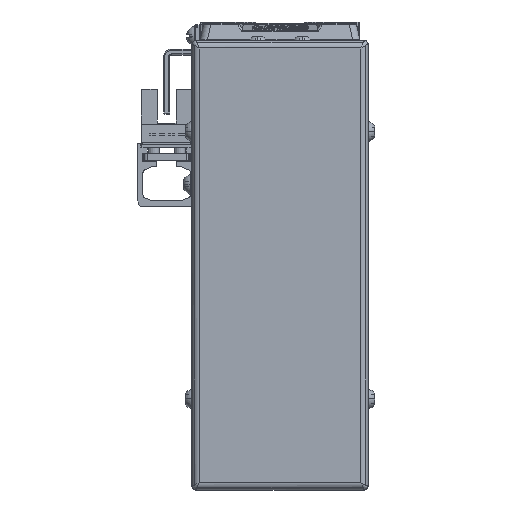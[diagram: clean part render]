
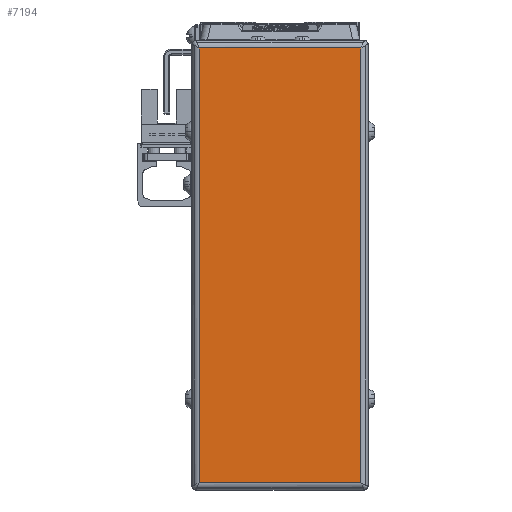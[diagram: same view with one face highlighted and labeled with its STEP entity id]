
A CAD part, left-side view. The second image highlights one B-rep face of the part: STEP entity #7194.
In plain terms, the highlighted planar face has unit normal (-1, 0, 0).
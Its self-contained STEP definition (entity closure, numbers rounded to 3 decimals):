
#7194=ADVANCED_FACE('',(#14523),#14524,.T.);
#14523=FACE_OUTER_BOUND('',#25053,.T.);
#14524=PLANE('',#25054);
#25053=EDGE_LOOP('',(#45694,#45695,#45696,#45697));
#25054=AXIS2_PLACEMENT_3D('',#45698,#45699,#45700);
#45694=ORIENTED_EDGE('',*,*,#48358,.F.);
#45695=ORIENTED_EDGE('',*,*,#50072,.F.);
#45696=ORIENTED_EDGE('',*,*,#46643,.F.);
#45697=ORIENTED_EDGE('',*,*,#51572,.F.);
#45698=CARTESIAN_POINT('',(-48.,0.,-42.5));
#45699=DIRECTION('',(-1.0,0.,0.));
#45700=DIRECTION('',(0.,0.,1.0));
#46643=EDGE_CURVE('',#55036,#55038,#55039,.T.);
#48358=EDGE_CURVE('',#58040,#58042,#58043,.T.);
#50072=EDGE_CURVE('',#55038,#58040,#60790,.T.);
#51572=EDGE_CURVE('',#58042,#55036,#63021,.T.);
#55036=VERTEX_POINT('',#67223);
#55038=VERTEX_POINT('',#67225);
#55039=LINE('',#67226,#67227);
#58040=VERTEX_POINT('',#71461);
#58042=VERTEX_POINT('',#71463);
#58043=LINE('',#71464,#71465);
#60790=LINE('',#75421,#75422);
#63021=LINE('',#78512,#78513);
#67223=CARTESIAN_POINT('',(-48.,-21.7,-101.0));
#67225=CARTESIAN_POINT('',(-48.,21.7,-101.0));
#67226=CARTESIAN_POINT('',(-48.,0.,-101.0));
#67227=VECTOR('',#84406,10.0);
#71461=CARTESIAN_POINT('',(-48.,21.7,16.));
#71463=CARTESIAN_POINT('',(-48.,-21.7,16.));
#71464=CARTESIAN_POINT('',(-48.,0.,16.));
#71465=VECTOR('',#86659,10.0);
#75421=CARTESIAN_POINT('',(-48.,21.7,-42.5));
#75422=VECTOR('',#88905,10.0);
#78512=CARTESIAN_POINT('',(-48.,-21.7,-42.5));
#78513=VECTOR('',#90925,10.0);
#84406=DIRECTION('',(0.,1.0,0.));
#86659=DIRECTION('',(0.,-1.0,0.));
#88905=DIRECTION('',(0.,0.,1.0));
#90925=DIRECTION('',(0.,0.,-1.0));
